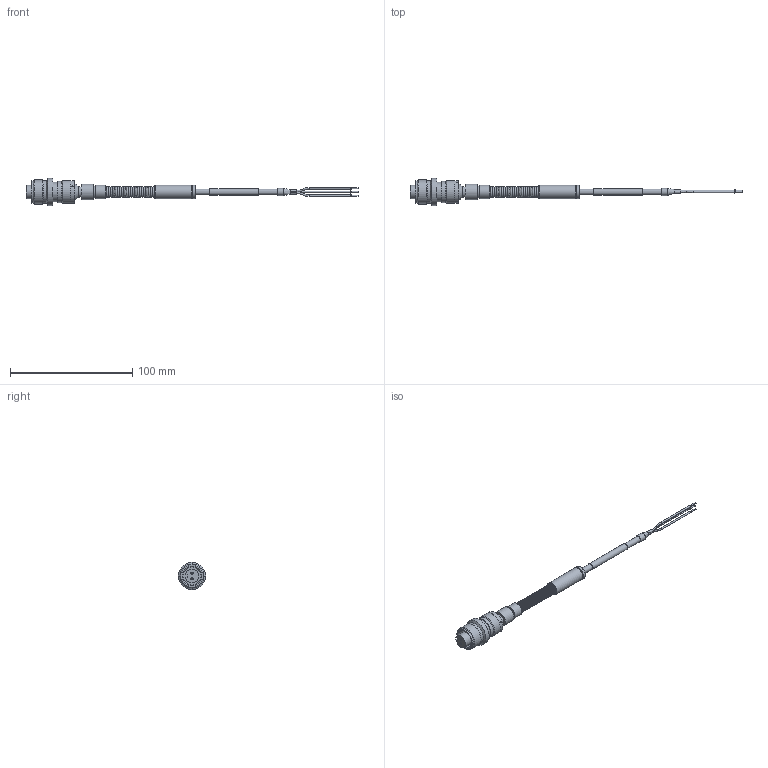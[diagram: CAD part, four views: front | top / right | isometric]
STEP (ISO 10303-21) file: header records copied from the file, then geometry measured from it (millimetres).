
FILE_DESCRIPTION (( 'STEP AP203' ), '1' );
FILE_NAME ('922-319-000-103.STEP', '2020-11-18T15:26:45', ( 'IT' ), ( 'MSS - CH' ), 'SwSTEP 2.0', 'SolidWorks 2017', '' );
FILE_SCHEMA (( 'CONFIG_CONTROL_DESIGN' ));
Length unit declared in the file: millimetre
Products named in the file (1): 922-319-000-103
Bounding box: 271.1 x 22.3 x 22.3 mm (x, y, z)
Volume: 17767.8 mm3; surface area: 15081.2 mm2
Topology: 1 solids, 1 shells, 352 faces, 605 edges, 397 vertices
Faces by surface type: plane 155, bspline 130, cylinder 43, cone 18, torus 6
Full cylindrical faces by diameter (mm): 0.8 x3, 0.9 x3, 1.1 x4, 1.3 x2, 1.8 x2, 4.8 x2, 5.2 x1, 5.3 x1, 5.8 x1, 8 x1, 8.55 x1, 8.7 x2, 10 x1, 11 x3, 12.8 x1, 14.5 x1, 14.7 x2, 15.875 x1, 17.2 x1, 18.3 x1, 18.5 x3, 19.6 x1, 22.3 x1
Entity records: 21670 total; most frequent: CARTESIAN_POINT 16930, ORIENTED_EDGE 748, EDGE_LOOP 695, DIRECTION 669, FACE_OUTER_BOUND 527, EDGE_CURVE 374, VERTEX_POINT 361, ADVANCED_FACE 352
